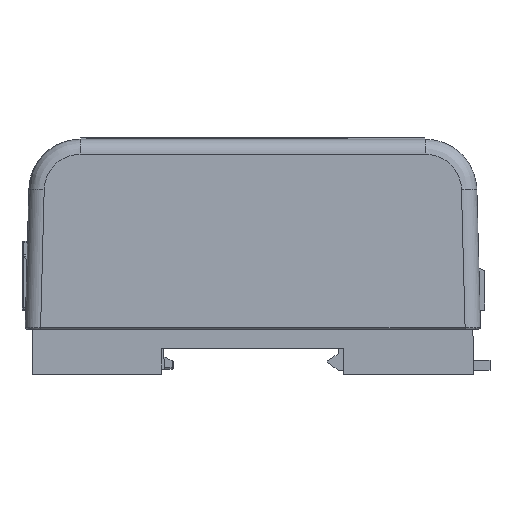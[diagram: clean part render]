
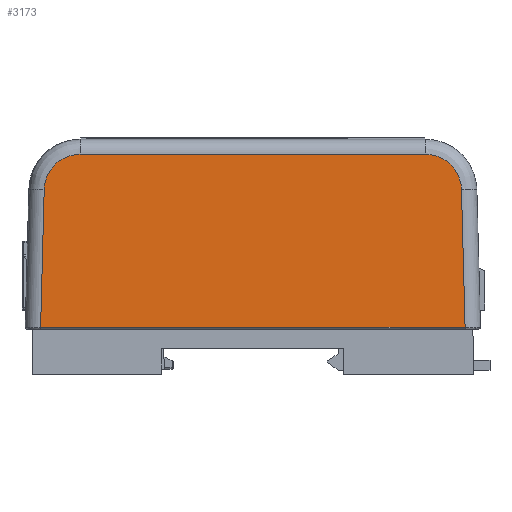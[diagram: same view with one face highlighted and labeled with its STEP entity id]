
A CAD part, front view. The second image highlights one B-rep face of the part: STEP entity #3173.
In plain terms, the highlighted planar face has unit normal (0, -1, 0.026).
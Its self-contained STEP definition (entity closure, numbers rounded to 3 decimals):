
#3173=ADVANCED_FACE('',(#28344),#265330,.T.);
#28344=FACE_OUTER_BOUND('',#53551,.T.);
#53551=EDGE_LOOP('',(#83696,#83697,#83698,#83699,#83700,#83701));
#83696=ORIENTED_EDGE('',*,*,#160840,.T.);
#83697=ORIENTED_EDGE('',*,*,#160750,.F.);
#83698=ORIENTED_EDGE('',*,*,#160796,.F.);
#83699=ORIENTED_EDGE('',*,*,#160817,.F.);
#83700=ORIENTED_EDGE('',*,*,#160802,.F.);
#83701=ORIENTED_EDGE('',*,*,#160818,.T.);
#160750=EDGE_CURVE('',#247534,#247535,#204872,.T.);
#160796=EDGE_CURVE('',#247580,#247534,#204907,.T.);
#160802=EDGE_CURVE('',#247587,#247583,#204910,.T.);
#160817=EDGE_CURVE('',#247583,#247580,#201769,.T.);
#160818=EDGE_CURVE('',#247587,#247594,#201770,.T.);
#160840=EDGE_CURVE('',#247594,#247535,#204920,.T.);
#201769=(
BOUNDED_CURVE()
B_SPLINE_CURVE(3,(#359781,#359782,#359783,#359784),.UNSPECIFIED.,.F.,.F.)
B_SPLINE_CURVE_WITH_KNOTS((4,4),(-12.05,0.),.UNSPECIFIED.)
CURVE()
GEOMETRIC_REPRESENTATION_ITEM()
RATIONAL_B_SPLINE_CURVE((1.,0.811,0.811,1.))
REPRESENTATION_ITEM('')
);
#201770=(
BOUNDED_CURVE()
B_SPLINE_CURVE(3,(#359785,#359786,#359787,#359788),.UNSPECIFIED.,.F.,.F.)
B_SPLINE_CURVE_WITH_KNOTS((4,4),(0.,12.05),.UNSPECIFIED.)
CURVE()
GEOMETRIC_REPRESENTATION_ITEM()
RATIONAL_B_SPLINE_CURVE((1.,0.811,0.811,1.))
REPRESENTATION_ITEM('')
);
#204872=B_SPLINE_CURVE_WITH_KNOTS('',1,(#359508,#359509),.UNSPECIFIED.,
 .F.,.F.,(2,2),(0.,82.786),.UNSPECIFIED.);
#204907=B_SPLINE_CURVE_WITH_KNOTS('',1,(#359717,#359718),.UNSPECIFIED.,
 .F.,.F.,(2,2),(0.,26.972),.UNSPECIFIED.);
#204910=B_SPLINE_CURVE_WITH_KNOTS('',1,(#359734,#359735),.UNSPECIFIED.,
 .F.,.F.,(2,2),(0.,67.379),.UNSPECIFIED.);
#204920=B_SPLINE_CURVE_WITH_KNOTS('',1,(#359865,#359866),.UNSPECIFIED.,
 .F.,.F.,(2,2),(-26.972,0.),.UNSPECIFIED.);
#247534=VERTEX_POINT('',#351174);
#247535=VERTEX_POINT('',#351175);
#247580=VERTEX_POINT('',#351220);
#247583=VERTEX_POINT('',#351223);
#247587=VERTEX_POINT('',#351227);
#247594=VERTEX_POINT('',#351234);
#265330=PLANE('',#290171);
#290171=AXIS2_PLACEMENT_3D('',#346375,#314961,$);
#314961=DIRECTION('',(0.,-1.,0.026));
#346375=CARTESIAN_POINT('',(-6.713,0.842,41.867));
#351174=CARTESIAN_POINT('',(84.354,-0.13,4.717));
#351175=CARTESIAN_POINT('',(1.568,-0.13,4.717));
#351220=CARTESIAN_POINT('',(83.648,0.575,31.671));
#351223=CARTESIAN_POINT('',(76.65,0.754,38.488));
#351227=CARTESIAN_POINT('',(9.271,0.754,38.488));
#351234=CARTESIAN_POINT('',(2.274,0.575,31.671));
#359508=CARTESIAN_POINT('',(84.354,-0.13,4.717));
#359509=CARTESIAN_POINT('',(1.568,-0.13,4.717));
#359717=CARTESIAN_POINT('',(83.648,0.575,31.671));
#359718=CARTESIAN_POINT('',(84.354,-0.13,4.717));
#359734=CARTESIAN_POINT('',(9.271,0.754,38.488));
#359735=CARTESIAN_POINT('',(76.65,0.754,38.488));
#359781=CARTESIAN_POINT('',(76.65,0.754,38.488));
#359782=CARTESIAN_POINT('',(80.666,0.754,38.488));
#359783=CARTESIAN_POINT('',(83.543,0.681,35.685));
#359784=CARTESIAN_POINT('',(83.648,0.575,31.671));
#359785=CARTESIAN_POINT('',(9.271,0.754,38.488));
#359786=CARTESIAN_POINT('',(5.255,0.754,38.488));
#359787=CARTESIAN_POINT('',(2.379,0.681,35.685));
#359788=CARTESIAN_POINT('',(2.274,0.575,31.671));
#359865=CARTESIAN_POINT('',(2.274,0.575,31.671));
#359866=CARTESIAN_POINT('',(1.568,-0.13,4.717));
